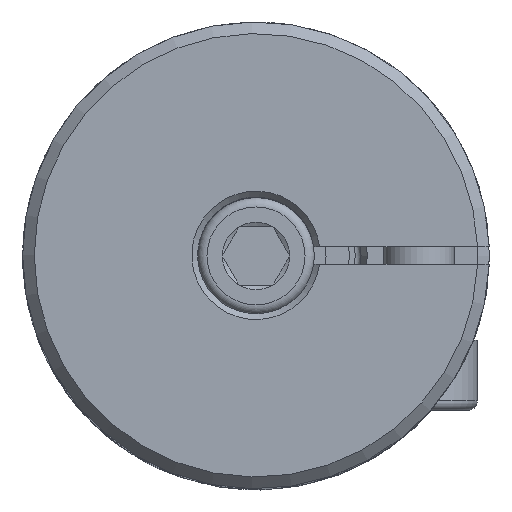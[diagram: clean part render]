
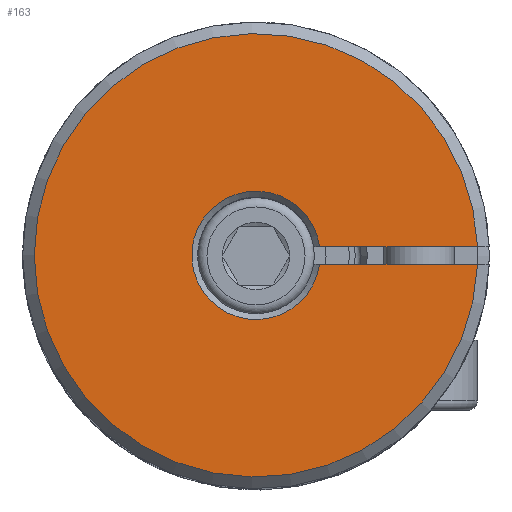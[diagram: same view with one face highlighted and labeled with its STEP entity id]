
A CAD part, top view. The second image highlights one B-rep face of the part: STEP entity #163.
In plain terms, the highlighted planar face has unit normal (0, 0, 1) as drawn and (0, 0, -1) by its records, which use the part's own axes.
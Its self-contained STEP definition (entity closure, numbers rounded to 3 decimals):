
#163 = ADVANCED_FACE( '', ( #325 ), #326, .T. );
#325 = FACE_OUTER_BOUND( '', #507, .T. );
#326 = PLANE( '', #508 );
#507 = EDGE_LOOP( '', ( #967, #968, #969, #970 ) );
#508 = AXIS2_PLACEMENT_3D( '', #971, #972, #973 );
#967 = ORIENTED_EDGE( '', *, *, #1617, .T. );
#968 = ORIENTED_EDGE( '', *, *, #1589, .T. );
#969 = ORIENTED_EDGE( '', *, *, #1595, .F. );
#970 = ORIENTED_EDGE( '', *, *, #1518, .T. );
#971 = CARTESIAN_POINT( '', ( 0., 0., 0. ) );
#972 = DIRECTION( '', ( 0., 0., -1. ) );
#973 = DIRECTION( '', ( -1., 0., 0. ) );
#1518 = EDGE_CURVE( '', #2032, #2029, #2033, .T. );
#1589 = EDGE_CURVE( '', #2141, #2145, #2147, .F. );
#1595 = EDGE_CURVE( '', #2032, #2145, #2156, .T. );
#1617 = EDGE_CURVE( '', #2029, #2141, #2186, .T. );
#2029 = VERTEX_POINT( '', #3350 );
#2032 = VERTEX_POINT( '', #3356 );
#2033 = CIRCLE( '', #3357, 19. );
#2141 = VERTEX_POINT( '', #3561 );
#2145 = VERTEX_POINT( '', #3568 );
#2147 = CIRCLE( '', #3573, 5.5 );
#2156 = LINE( '', #3583, #3584 );
#2186 = LINE( '', #3633, #3634 );
#3350 = CARTESIAN_POINT( '', ( -18.985, -0.75, 0. ) );
#3356 = CARTESIAN_POINT( '', ( -18.985, 0.75, 0. ) );
#3357 = AXIS2_PLACEMENT_3D( '', #4204, #4205, #4206 );
#3561 = CARTESIAN_POINT( '', ( -5.449, -0.75, 0. ) );
#3568 = CARTESIAN_POINT( '', ( -5.449, 0.75, 0. ) );
#3573 = AXIS2_PLACEMENT_3D( '', #4304, #4305, #4306 );
#3583 = CARTESIAN_POINT( '', ( -20., 0.75, 0. ) );
#3584 = VECTOR( '', #4314, 1000. );
#3633 = CARTESIAN_POINT( '', ( -20., -0.75, 0. ) );
#3634 = VECTOR( '', #4341, 1000. );
#4204 = CARTESIAN_POINT( '', ( 0., 0., 0. ) );
#4205 = DIRECTION( '', ( 0., 0., -1. ) );
#4206 = DIRECTION( '', ( -1., 0., 0. ) );
#4304 = CARTESIAN_POINT( '', ( 0., 0., 0. ) );
#4305 = DIRECTION( '', ( 0., 0., -1. ) );
#4306 = DIRECTION( '', ( -1., 0., 0. ) );
#4314 = DIRECTION( '', ( 1., 0., 0. ) );
#4341 = DIRECTION( '', ( 1., 0., 0. ) );
